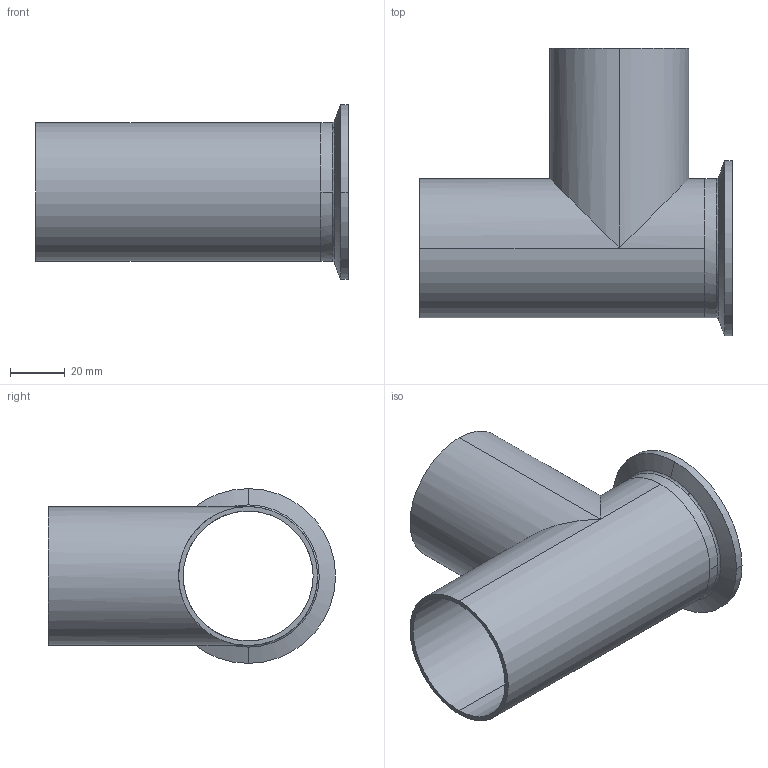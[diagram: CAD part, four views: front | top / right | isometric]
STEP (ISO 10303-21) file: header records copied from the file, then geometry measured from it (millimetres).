
FILE_DESCRIPTION (( 'STEP AP214' ), '1' );
FILE_NAME ('TE7WCSW6L2.0-...STEP', '2016-05-24T11:45:51', ( 'eran' ), ( '' ), 'SwSTEP 2.0', 'SolidWorks 2016', '' );
FILE_SCHEMA (( 'AUTOMOTIVE_DESIGN' ));
Length unit declared in the file: millimetre
Products named in the file (1): TE7WCSW6L2.0-..
Bounding box: 114.3 x 104.95 x 63.91 mm (x, y, z)
Volume: 44236.1 mm3; surface area: 51663.6 mm2
Topology: 2 solids, 2 shells, 38 faces, 94 edges, 60 vertices
Faces by surface type: cylinder 16, bspline 10, plane 6, cone 6
Entity records: 1866 total; most frequent: CARTESIAN_POINT 915, DIRECTION 202, ORIENTED_EDGE 188, EDGE_CURVE 94, AXIS2_PLACEMENT_3D 89, CIRCLE 60, VERTEX_POINT 60, EDGE_LOOP 44
